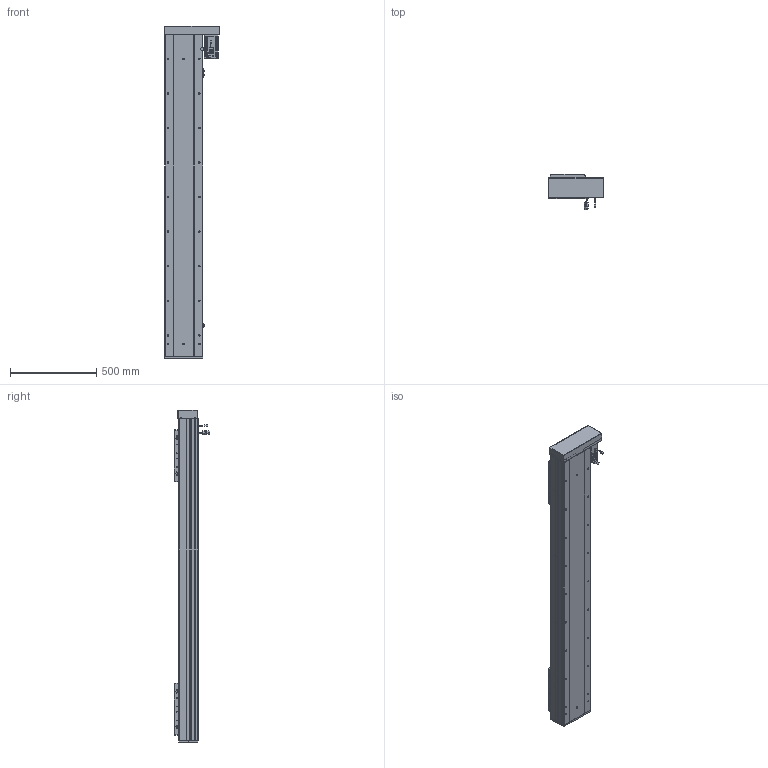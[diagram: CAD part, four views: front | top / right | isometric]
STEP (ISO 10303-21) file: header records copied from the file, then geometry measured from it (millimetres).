
FILE_DESCRIPTION (( 'STEP AP203' ), '1' );
FILE_NAME ('RY220F-L2525-300-RK.SLDASM_1450.step', '2022-07-04T01:35:44', ( '' ), ( '' ), 'SwSTEP 2.0', 'SolidWorks 2016', '' );
FILE_SCHEMA (( 'CONFIG_CONTROL_DESIGN' ));
Length unit declared in the file: millimetre
Products named in the file (15): 覜茼ん672; RY220F-祥凄詩湍-蛌殏-300_1450; RY220F臏賑釱25-32佪裝; 滅袉蝶18-24; 侐源滅袉蝶; RY220F-詩湍揤踡輸; 怢湛750W_ECMA-CX0807ES; RY220F蛌殏菁釱-300_1450; RY220F-滅鳥奻裔; RY220F-672覜茼んえ; RY220左右折电机安装板; RY220F綴裔啣; RY220F-L2525-300-RK.SLDASM_1450; RY220酘衵殏萇儂欶; RY220F-蛌殏奻裔啣-300_1450
Assembly tree (24 placements, depth 2):
  RY220F-L2525-300-RK.SLDASM_1450
    RY220F蛌殏菁釱-300_1450
    RY220F-蛌殏奻裔啣-300_1450  x2
    怢湛750W_ECMA-CX0807ES
    RY220F臏賑釱25-32佪裝  x2
    RY220F-滅鳥奻裔  x2
    滅袉蝶18-24  x3
    RY220F綴裔啣
    RY220F-祥凄詩湍-蛌殏-300_1450
    RY220F-詩湍揤踡輸  x2
    覜茼ん672  x3
    RY220F-672覜茼んえ  x2
    RY220左右折电机安装板
    RY220酘衵殏萇儂欶
    侐源滅袉蝶  x2
Bounding box: 317.5 x 205.27 x 1921 mm (x, y, z)
Volume: 17423657.1 mm3; surface area: 4599202.6 mm2
Topology: 25 solids, 25 shells, 2804 faces, 7624 edges, 4712 vertices
Faces by surface type: cylinder 1270, plane 1044, cone 419, bspline 45, sphere 16, torus 10
Entity records: 69712 total; most frequent: CARTESIAN_POINT 18813, ORIENTED_EDGE 10270, DIRECTION 10028, EDGE_CURVE 5135, AXIS2_PLACEMENT_3D 3578, VERTEX_POINT 3328, LINE 2872, VECTOR 2872
